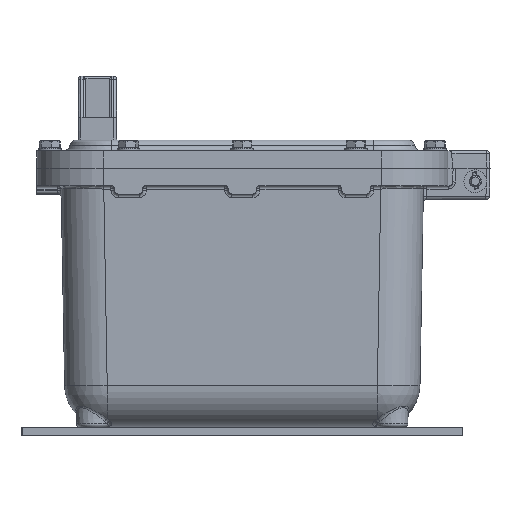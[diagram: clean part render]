
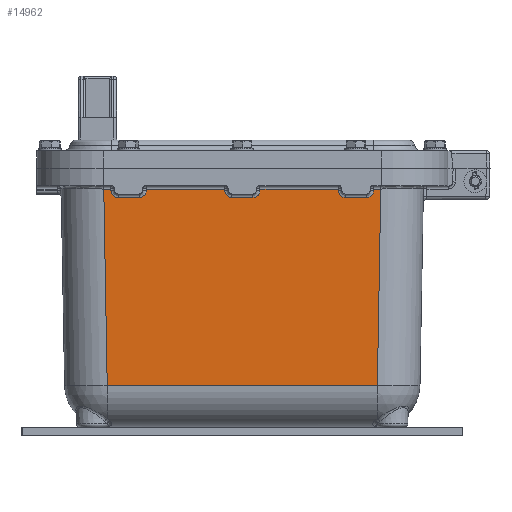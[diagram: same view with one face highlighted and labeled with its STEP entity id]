
A CAD part, front view. The second image highlights one B-rep face of the part: STEP entity #14962.
In plain terms, the highlighted planar face has unit normal (0, -1, -0.018).
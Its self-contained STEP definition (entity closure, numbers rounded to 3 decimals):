
#10018=CARTESIAN_POINT('',(-92.457,-167.748,-14.456));
#10019=VERTEX_POINT('',#10018);
#10044=CARTESIAN_POINT('',(-97.452,-167.748,-14.456));
#10045=VERTEX_POINT('',#10044);
#10053=CARTESIAN_POINT('',(-97.452,-167.748,-14.456));
#10054=DIRECTION('',(1.0,0.0,0.0));
#10055=VECTOR('',#10054,4.995);
#10056=LINE('',#10053,#10055);
#10057=EDGE_CURVE('',#10045,#10019,#10056,.T.);
#10280=CARTESIAN_POINT('',(-92.438,-167.729,-15.544));
#10281=VERTEX_POINT('',#10280);
#10289=CARTESIAN_POINT('',(-87.439,-167.643,-20.456));
#10290=VERTEX_POINT('',#10289);
#10291=CARTESIAN_POINT('',(-87.439,-167.73,-15.456));
#10292=DIRECTION('',(0.,-1.,-0.017));
#10293=DIRECTION('',(0.,0.017,-1.));
#10294=AXIS2_PLACEMENT_3D('',#10291,#10292,#10293);
#10295=ELLIPSE('',#10294,5.001,5.);
#10296=EDGE_CURVE('',#10281,#10290,#10295,.T.);
#10314=CARTESIAN_POINT('',(-92.457,-167.748,-14.456));
#10315=DIRECTION('',(0.017,0.017,-1.));
#10316=VECTOR('',#10315,1.088);
#10317=LINE('',#10314,#10316);
#10318=EDGE_CURVE('',#10019,#10281,#10317,.T.);
#10421=CARTESIAN_POINT('',(-72.561,-167.643,-20.456));
#10422=VERTEX_POINT('',#10421);
#10423=CARTESIAN_POINT('',(-67.562,-167.729,-15.544));
#10424=VERTEX_POINT('',#10423);
#10425=CARTESIAN_POINT('',(-72.561,-167.73,-15.456));
#10426=DIRECTION('',(0.,-1.,-0.017));
#10427=DIRECTION('',(0.,0.017,-1.));
#10428=AXIS2_PLACEMENT_3D('',#10425,#10426,#10427);
#10429=ELLIPSE('',#10428,5.001,5.);
#10430=EDGE_CURVE('',#10422,#10424,#10429,.T.);
#10502=CARTESIAN_POINT('',(-67.543,-167.748,-14.456));
#10503=VERTEX_POINT('',#10502);
#10558=CARTESIAN_POINT('',(-67.562,-167.729,-15.544));
#10559=DIRECTION('',(0.017,-0.017,1.));
#10560=VECTOR('',#10559,1.088);
#10561=LINE('',#10558,#10560);
#10562=EDGE_CURVE('',#10424,#10503,#10561,.T.);
#10625=CARTESIAN_POINT('',(-12.457,-167.748,-14.456));
#10626=VERTEX_POINT('',#10625);
#10650=CARTESIAN_POINT('',(-67.543,-167.748,-14.456));
#10651=DIRECTION('',(1.0,0.0,0.0));
#10652=VECTOR('',#10651,55.087);
#10653=LINE('',#10650,#10652);
#10654=EDGE_CURVE('',#10503,#10626,#10653,.T.);
#10790=CARTESIAN_POINT('',(-12.438,-167.729,-15.544));
#10791=VERTEX_POINT('',#10790);
#10799=CARTESIAN_POINT('',(-7.439,-167.643,-20.456));
#10800=VERTEX_POINT('',#10799);
#10801=CARTESIAN_POINT('',(-7.439,-167.73,-15.456));
#10802=DIRECTION('',(0.,-1.,-0.017));
#10803=DIRECTION('',(0.,0.017,-1.));
#10804=AXIS2_PLACEMENT_3D('',#10801,#10802,#10803);
#10805=ELLIPSE('',#10804,5.001,5.);
#10806=EDGE_CURVE('',#10791,#10800,#10805,.T.);
#10824=CARTESIAN_POINT('',(-12.457,-167.748,-14.456));
#10825=DIRECTION('',(0.017,0.017,-1.));
#10826=VECTOR('',#10825,1.088);
#10827=LINE('',#10824,#10826);
#10828=EDGE_CURVE('',#10626,#10791,#10827,.T.);
#10931=CARTESIAN_POINT('',(7.439,-167.643,-20.456));
#10932=VERTEX_POINT('',#10931);
#10933=CARTESIAN_POINT('',(12.438,-167.729,-15.544));
#10934=VERTEX_POINT('',#10933);
#10935=CARTESIAN_POINT('',(7.439,-167.73,-15.456));
#10936=DIRECTION('',(0.,-1.,-0.017));
#10937=DIRECTION('',(0.,0.017,-1.));
#10938=AXIS2_PLACEMENT_3D('',#10935,#10936,#10937);
#10939=ELLIPSE('',#10938,5.001,5.);
#10940=EDGE_CURVE('',#10932,#10934,#10939,.T.);
#11002=CARTESIAN_POINT('',(12.457,-167.748,-14.456));
#11003=VERTEX_POINT('',#11002);
#11058=CARTESIAN_POINT('',(12.438,-167.729,-15.544));
#11059=DIRECTION('',(0.017,-0.017,1.));
#11060=VECTOR('',#11059,1.088);
#11061=LINE('',#11058,#11060);
#11062=EDGE_CURVE('',#10934,#11003,#11061,.T.);
#11115=CARTESIAN_POINT('',(67.543,-167.748,-14.456));
#11116=VERTEX_POINT('',#11115);
#11140=CARTESIAN_POINT('',(12.457,-167.748,-14.456));
#11141=DIRECTION('',(1.0,0.0,0.0));
#11142=VECTOR('',#11141,55.087);
#11143=LINE('',#11140,#11142);
#11144=EDGE_CURVE('',#11003,#11116,#11143,.T.);
#11265=CARTESIAN_POINT('',(67.562,-167.729,-15.544));
#11266=VERTEX_POINT('',#11265);
#11274=CARTESIAN_POINT('',(72.561,-167.643,-20.456));
#11275=VERTEX_POINT('',#11274);
#11276=CARTESIAN_POINT('',(72.561,-167.73,-15.456));
#11277=DIRECTION('',(0.,-1.,-0.017));
#11278=DIRECTION('',(0.,0.017,-1.));
#11279=AXIS2_PLACEMENT_3D('',#11276,#11277,#11278);
#11280=ELLIPSE('',#11279,5.001,5.);
#11281=EDGE_CURVE('',#11266,#11275,#11280,.T.);
#11299=CARTESIAN_POINT('',(67.543,-167.748,-14.456));
#11300=DIRECTION('',(0.017,0.017,-1.));
#11301=VECTOR('',#11300,1.088);
#11302=LINE('',#11299,#11301);
#11303=EDGE_CURVE('',#11116,#11266,#11302,.T.);
#11396=CARTESIAN_POINT('',(87.439,-167.643,-20.456));
#11397=VERTEX_POINT('',#11396);
#11398=CARTESIAN_POINT('',(92.438,-167.729,-15.544));
#11399=VERTEX_POINT('',#11398);
#11400=CARTESIAN_POINT('',(87.439,-167.73,-15.456));
#11401=DIRECTION('',(0.0,-1.,-0.017));
#11402=DIRECTION('',(0.,0.017,-1.));
#11403=AXIS2_PLACEMENT_3D('',#11400,#11401,#11402);
#11404=ELLIPSE('',#11403,5.001,5.);
#11405=EDGE_CURVE('',#11397,#11399,#11404,.T.);
#11501=CARTESIAN_POINT('',(92.457,-167.748,-14.456));
#11502=VERTEX_POINT('',#11501);
#11557=CARTESIAN_POINT('',(92.438,-167.729,-15.544));
#11558=DIRECTION('',(0.017,-0.017,1.));
#11559=VECTOR('',#11558,1.088);
#11560=LINE('',#11557,#11559);
#11561=EDGE_CURVE('',#11399,#11502,#11560,.T.);
#11701=CARTESIAN_POINT('',(97.452,-167.748,-14.456));
#11702=VERTEX_POINT('',#11701);
#11734=CARTESIAN_POINT('',(92.457,-167.748,-14.456));
#11735=DIRECTION('',(1.0,0.0,0.0));
#11736=VECTOR('',#11735,4.995);
#11737=LINE('',#11734,#11736);
#11738=EDGE_CURVE('',#11502,#11702,#11737,.T.);
#14355=CARTESIAN_POINT('',(72.561,-167.643,-20.456));
#14356=DIRECTION('',(1.0,0.0,0.0));
#14357=VECTOR('',#14356,14.877);
#14358=LINE('',#14355,#14357);
#14359=EDGE_CURVE('',#11275,#11397,#14358,.T.);
#14521=CARTESIAN_POINT('',(-7.439,-167.643,-20.456));
#14522=DIRECTION('',(1.0,0.0,0.0));
#14523=VECTOR('',#14522,14.877);
#14524=LINE('',#14521,#14523);
#14525=EDGE_CURVE('',#10800,#10932,#14524,.T.);
#14763=CARTESIAN_POINT('',(-87.439,-167.643,-20.456));
#14764=DIRECTION('',(1.0,0.0,0.0));
#14765=VECTOR('',#14764,14.877);
#14766=LINE('',#14763,#14765);
#14767=EDGE_CURVE('',#10290,#10422,#14766,.T.);
#14895=CARTESIAN_POINT('',(95.039,-165.334,-152.724));
#14896=VERTEX_POINT('',#14895);
#14897=CARTESIAN_POINT('',(97.452,-167.748,-14.456));
#14898=DIRECTION('',(-0.017,0.017,-1.));
#14899=VECTOR('',#14898,138.309);
#14900=LINE('',#14897,#14899);
#14901=EDGE_CURVE('',#11702,#14896,#14900,.T.);
#14921=CARTESIAN_POINT('',(-127.7,-168.0,0.0));
#14922=DIRECTION('',(0.0,-1.,-0.017));
#14923=DIRECTION('',(-1.0,0.0,0.0));
#14924=AXIS2_PLACEMENT_3D('',#14921,#14922,#14923);
#14925=PLANE('',#14924);
#14926=ORIENTED_EDGE('',*,*,#11738,.F.);
#14927=ORIENTED_EDGE('',*,*,#11561,.F.);
#14928=ORIENTED_EDGE('',*,*,#11405,.F.);
#14929=ORIENTED_EDGE('',*,*,#14359,.F.);
#14930=ORIENTED_EDGE('',*,*,#11281,.F.);
#14931=ORIENTED_EDGE('',*,*,#11303,.F.);
#14932=ORIENTED_EDGE('',*,*,#11144,.F.);
#14933=ORIENTED_EDGE('',*,*,#11062,.F.);
#14934=ORIENTED_EDGE('',*,*,#10940,.F.);
#14935=ORIENTED_EDGE('',*,*,#14525,.F.);
#14936=ORIENTED_EDGE('',*,*,#10806,.F.);
#14937=ORIENTED_EDGE('',*,*,#10828,.F.);
#14938=ORIENTED_EDGE('',*,*,#10654,.F.);
#14939=ORIENTED_EDGE('',*,*,#10562,.F.);
#14940=ORIENTED_EDGE('',*,*,#10430,.F.);
#14941=ORIENTED_EDGE('',*,*,#14767,.F.);
#14942=ORIENTED_EDGE('',*,*,#10296,.F.);
#14943=ORIENTED_EDGE('',*,*,#10318,.F.);
#14944=ORIENTED_EDGE('',*,*,#10057,.F.);
#14945=CARTESIAN_POINT('',(-95.039,-165.334,-152.724));
#14946=VERTEX_POINT('',#14945);
#14947=CARTESIAN_POINT('',(-95.039,-165.334,-152.724));
#14948=DIRECTION('',(-0.017,-0.017,1.));
#14949=VECTOR('',#14948,138.309);
#14950=LINE('',#14947,#14949);
#14951=EDGE_CURVE('',#14946,#10045,#14950,.T.);
#14952=ORIENTED_EDGE('',*,*,#14951,.F.);
#14953=CARTESIAN_POINT('',(95.039,-165.334,-152.724));
#14954=DIRECTION('',(-1.0,0.0,0.0));
#14955=VECTOR('',#14954,190.078);
#14956=LINE('',#14953,#14955);
#14957=EDGE_CURVE('',#14896,#14946,#14956,.T.);
#14958=ORIENTED_EDGE('',*,*,#14957,.F.);
#14959=ORIENTED_EDGE('',*,*,#14901,.F.);
#14960=EDGE_LOOP('',(#14926,#14927,#14928,#14929,#14930,#14931,#14932,#14933,#14934,#14935,#14936,#14937,#14938,#14939,#14940,#14941,#14942,#14943,#14944,#14952,#14958,#14959));
#14961=FACE_OUTER_BOUND('',#14960,.T.);
#14962=ADVANCED_FACE('',(#14961),#14925,.T.);
